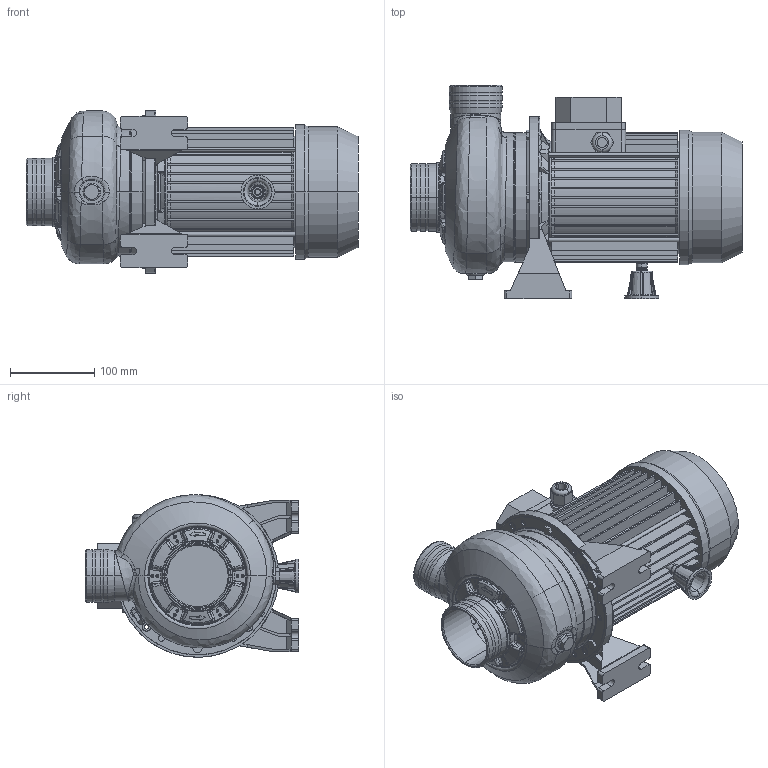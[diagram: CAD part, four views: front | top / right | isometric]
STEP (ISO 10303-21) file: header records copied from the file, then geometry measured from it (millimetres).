
FILE_DESCRIPTION((''),'2;1');
FILE_NAME('DWO_300_IE3_ASM','2017-12-11T',('rosa'),('"Ebara Pumps Europe +39.444.706811"'),'PRO/ENGINEER BY PARAMETRIC TECHNOLOGY CORPORATION, 2012130','PRO/ENGINEER BY PARAMETRIC TECHNOLOGY CORPORATION, 2012130','');
FILE_SCHEMA(('AUTOMOTIVE_DESIGN { 1 0 10303 214 1 1 1 1 }'));
Length unit declared in the file: millimetre
Products named in the file (13): MEC_80X130_IE3; 80596; 251420991; 62037; 62035; 10054; 76006; 40032; 20993_ASM; 72012; 360610016; 72129; DWO_300_IE3_ASM
Assembly tree (14 placements, depth 3):
  DWO_300_IE3_ASM
    MEC_80X130_IE3
    80596
    20993_ASM
      251420991
      62037
      62035
      10054
      76006  x2
      40032  x2
    72012
    360610016
    72129
Bounding box: 394 x 253 x 192.93 mm (x, y, z)
Volume: 2773089.3 mm3; surface area: 692525.7 mm2
Topology: 13 solids, 13 shells, 1657 faces, 4014 edges, 2428 vertices
Faces by surface type: plane 502, bspline 434, cylinder 312, torus 202, cone 161, sphere 42, extrusion 4
Entity records: 91361 total; most frequent: CARTESIAN_POINT 41543, ORIENTED_EDGE 7846, DIRECTION 6785, EDGE_CURVE 3923, PRESENTATION_STYLE_ASSIGNMENT 3908, STYLED_ITEM 3908, CURVE_STYLE 3899, AXIS2_PLACEMENT_3D 2811
